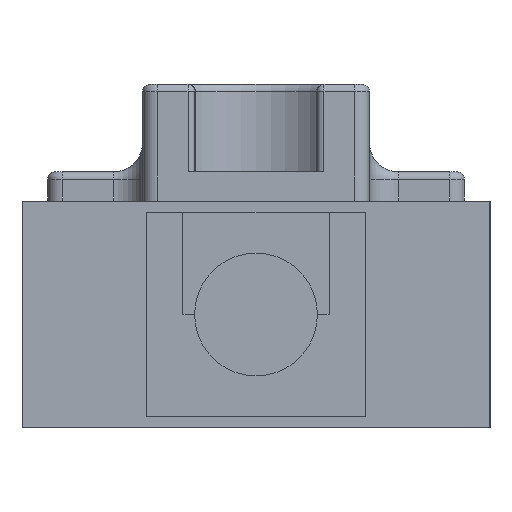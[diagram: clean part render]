
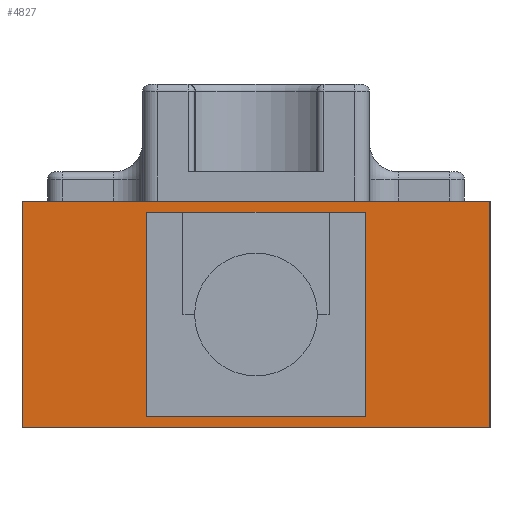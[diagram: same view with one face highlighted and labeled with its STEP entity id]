
A CAD part, front view. The second image highlights one B-rep face of the part: STEP entity #4827.
In plain terms, the highlighted planar face has unit normal (0, -1, 0).
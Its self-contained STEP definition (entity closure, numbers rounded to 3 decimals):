
#365 = ORIENTED_EDGE ( 'NONE', *, *, #2169, .T. ) ;
#478 = EDGE_LOOP ( 'NONE', ( #7958, #7091, #8849, #365 ) ) ;
#719 = CARTESIAN_POINT ( 'NONE',  ( -7., -199.25, -6.25 ) ) ;
#1064 = LINE ( 'NONE', #5267, #5026 ) ;
#1089 = CARTESIAN_POINT ( 'NONE',  ( -7., -199.25, -6.25 ) ) ;
#1154 = LINE ( 'NONE', #6015, #4408 ) ;
#1189 = VERTEX_POINT ( 'NONE', #5201 ) ;
#1442 = LINE ( 'NONE', #4949, #5004 ) ;
#1456 = DIRECTION ( 'NONE',  ( 0., 0., -1. ) ) ;
#1600 = DIRECTION ( 'NONE',  ( 0., 0., -1. ) ) ;
#1623 = EDGE_CURVE ( 'NONE', #3746, #2709, #1154, .T. ) ;
#1632 = VECTOR ( 'NONE', #5215, 1000. ) ;
#1668 = VERTEX_POINT ( 'NONE', #8235 ) ;
#2009 = DIRECTION ( 'NONE',  ( 0., 0., -1. ) ) ;
#2169 = EDGE_CURVE ( 'NONE', #3746, #5457, #8645, .T. ) ;
#2182 = PLANE ( 'NONE',  #8075 ) ;
#2380 = CARTESIAN_POINT ( 'NONE',  ( -16., -199.25, 7.75 ) ) ;
#2552 = VERTEX_POINT ( 'NONE', #8633 ) ;
#2709 = VERTEX_POINT ( 'NONE', #8514 ) ;
#2786 = VECTOR ( 'NONE', #1600, 1000. ) ;
#3062 = VECTOR ( 'NONE', #2009, 1000. ) ;
#3374 = EDGE_CURVE ( 'NONE', #2709, #4085, #4216, .T. ) ;
#3436 = ORIENTED_EDGE ( 'NONE', *, *, #9031, .F. ) ;
#3545 = VECTOR ( 'NONE', #7564, 1000. ) ;
#3746 = VERTEX_POINT ( 'NONE', #6165 ) ;
#3933 = LINE ( 'NONE', #3985, #3545 ) ;
#3985 = CARTESIAN_POINT ( 'NONE',  ( 7., -199.25, 6.25 ) ) ;
#4070 = DIRECTION ( 'NONE',  ( 0., 1., 0. ) ) ;
#4085 = VERTEX_POINT ( 'NONE', #5496 ) ;
#4183 = CARTESIAN_POINT ( 'NONE',  ( 7., -199.25, -6.25 ) ) ;
#4216 = LINE ( 'NONE', #4917, #6150 ) ;
#4408 = VECTOR ( 'NONE', #5499, 1000. ) ;
#4419 = EDGE_LOOP ( 'NONE', ( #5820, #4510, #3436, #8672 ) ) ;
#4510 = ORIENTED_EDGE ( 'NONE', *, *, #5846, .F. ) ;
#4536 = EDGE_CURVE ( 'NONE', #1668, #1189, #5526, .T. ) ;
#4827 = ADVANCED_FACE ( 'NONE', ( #5709, #8534 ), #2182, .F. ) ;
#4917 = CARTESIAN_POINT ( 'NONE',  ( 16., -199.25, 7.75 ) ) ;
#4949 = CARTESIAN_POINT ( 'NONE',  ( 7., -199.25, 6.25 ) ) ;
#5004 = VECTOR ( 'NONE', #8628, 1000. ) ;
#5026 = VECTOR ( 'NONE', #6008, 1000. ) ;
#5201 = CARTESIAN_POINT ( 'NONE',  ( -7., -199.25, -6.25 ) ) ;
#5215 = DIRECTION ( 'NONE',  ( 1., 0., 0. ) ) ;
#5267 = CARTESIAN_POINT ( 'NONE',  ( -16., -199.25, -7.75 ) ) ;
#5457 = VERTEX_POINT ( 'NONE', #8770 ) ;
#5496 = CARTESIAN_POINT ( 'NONE',  ( 16., -199.25, -7.75 ) ) ;
#5499 = DIRECTION ( 'NONE',  ( 1., 0., 0. ) ) ;
#5526 = LINE ( 'NONE', #719, #3062 ) ;
#5709 = FACE_BOUND ( 'NONE', #4419, .T. ) ;
#5820 = ORIENTED_EDGE ( 'NONE', *, *, #4536, .F. ) ;
#5846 = EDGE_CURVE ( 'NONE', #2552, #1668, #1442, .T. ) ;
#6008 = DIRECTION ( 'NONE',  ( 1., 0., 0. ) ) ;
#6015 = CARTESIAN_POINT ( 'NONE',  ( -16., -199.25, 7.75 ) ) ;
#6150 = VECTOR ( 'NONE', #1456, 1000. ) ;
#6165 = CARTESIAN_POINT ( 'NONE',  ( -16., -199.25, 7.75 ) ) ;
#6920 = DIRECTION ( 'NONE',  ( 0., 0., 1. ) ) ;
#7091 = ORIENTED_EDGE ( 'NONE', *, *, #3374, .F. ) ;
#7147 = EDGE_CURVE ( 'NONE', #5457, #4085, #1064, .T. ) ;
#7564 = DIRECTION ( 'NONE',  ( 0., 0., 1. ) ) ;
#7605 = CARTESIAN_POINT ( 'NONE',  ( -16., -199.25, 7.75 ) ) ;
#7958 = ORIENTED_EDGE ( 'NONE', *, *, #7147, .T. ) ;
#8075 = AXIS2_PLACEMENT_3D ( 'NONE', #7605, #4070, #6920 ) ;
#8131 = LINE ( 'NONE', #1089, #1632 ) ;
#8235 = CARTESIAN_POINT ( 'NONE',  ( -7., -199.25, 6.25 ) ) ;
#8405 = VERTEX_POINT ( 'NONE', #4183 ) ;
#8514 = CARTESIAN_POINT ( 'NONE',  ( 16., -199.25, 7.75 ) ) ;
#8518 = EDGE_CURVE ( 'NONE', #1189, #8405, #8131, .T. ) ;
#8534 = FACE_OUTER_BOUND ( 'NONE', #478, .T. ) ;
#8628 = DIRECTION ( 'NONE',  ( -1., 0., 0. ) ) ;
#8633 = CARTESIAN_POINT ( 'NONE',  ( 7., -199.25, 6.25 ) ) ;
#8645 = LINE ( 'NONE', #2380, #2786 ) ;
#8672 = ORIENTED_EDGE ( 'NONE', *, *, #8518, .F. ) ;
#8770 = CARTESIAN_POINT ( 'NONE',  ( -16., -199.25, -7.75 ) ) ;
#8849 = ORIENTED_EDGE ( 'NONE', *, *, #1623, .F. ) ;
#9031 = EDGE_CURVE ( 'NONE', #8405, #2552, #3933, .T. ) ;
